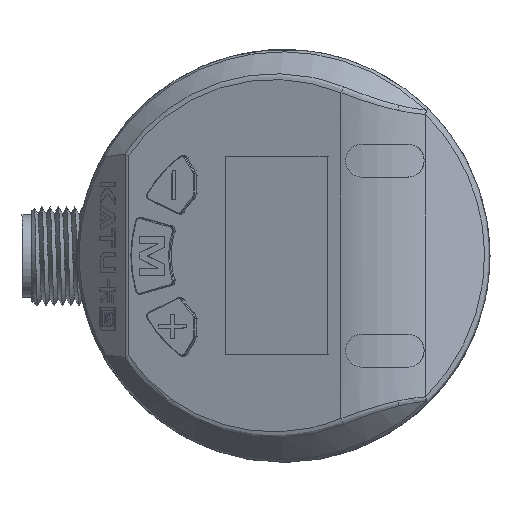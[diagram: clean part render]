
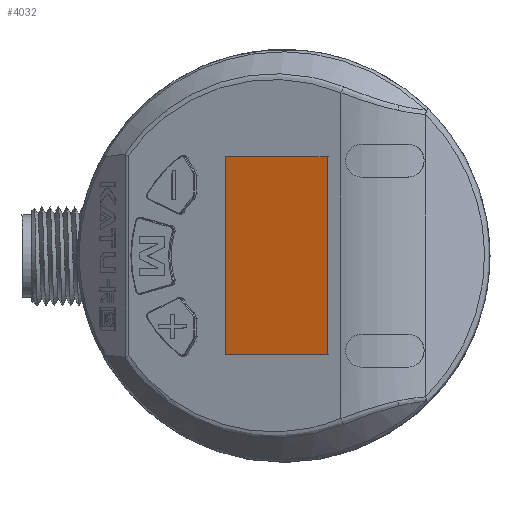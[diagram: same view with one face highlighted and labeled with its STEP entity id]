
A CAD part, top view. The second image highlights one B-rep face of the part: STEP entity #4032.
In plain terms, the highlighted planar face has unit normal (-0.342, 0, 0.94).
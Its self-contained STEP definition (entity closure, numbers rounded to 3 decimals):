
#874=LINE('',#22200,#1618);
#875=LINE('',#22203,#1619);
#876=LINE('',#22205,#1620);
#877=LINE('',#22207,#1621);
#1618=VECTOR('',#14382,1.);
#1619=VECTOR('',#14383,1.);
#1620=VECTOR('',#14384,1.);
#1621=VECTOR('',#14385,1.);
#3287=FACE_OUTER_BOUND('',#5428,.T.);
#4032=ADVANCED_FACE('',(#3287),#4363,.T.);
#4363=PLANE('',#11737);
#5428=EDGE_LOOP('',(#8073,#8074,#8075,#8076));
#8073=ORIENTED_EDGE('',*,*,#10411,.T.);
#8074=ORIENTED_EDGE('',*,*,#10412,.T.);
#8075=ORIENTED_EDGE('',*,*,#10413,.T.);
#8076=ORIENTED_EDGE('',*,*,#10414,.T.);
#9066=VERTEX_POINT('',#22201);
#9067=VERTEX_POINT('',#22202);
#9068=VERTEX_POINT('',#22204);
#9069=VERTEX_POINT('',#22206);
#10411=EDGE_CURVE('',#9066,#9067,#874,.T.);
#10412=EDGE_CURVE('',#9067,#9068,#875,.T.);
#10413=EDGE_CURVE('',#9068,#9069,#876,.T.);
#10414=EDGE_CURVE('',#9069,#9066,#877,.T.);
#11737=AXIS2_PLACEMENT_3D('',#22208,#14386,#14387);
#14382=DIRECTION('',(-0.94,0.,-0.342));
#14383=DIRECTION('',(0.,-1.,0.));
#14384=DIRECTION('',(0.94,0.,0.342));
#14385=DIRECTION('',(0.,1.,0.));
#14386=DIRECTION('',(-0.342,0.,0.94));
#14387=DIRECTION('',(-0.94,0.,-0.342));
#22200=CARTESIAN_POINT('',(45.306,12.006,121.2));
#22201=CARTESIAN_POINT('',(36.258,12.002,117.907));
#22202=CARTESIAN_POINT('',(23.939,11.997,113.423));
#22203=CARTESIAN_POINT('',(23.949,-15.759,113.427));
#22204=CARTESIAN_POINT('',(23.948,-11.997,113.426));
#22205=CARTESIAN_POINT('',(45.315,-11.988,121.203));
#22206=CARTESIAN_POINT('',(36.267,-11.992,117.91));
#22207=CARTESIAN_POINT('',(36.268,-15.753,117.91));
#22208=CARTESIAN_POINT('',(45.316,-15.75,121.204));
